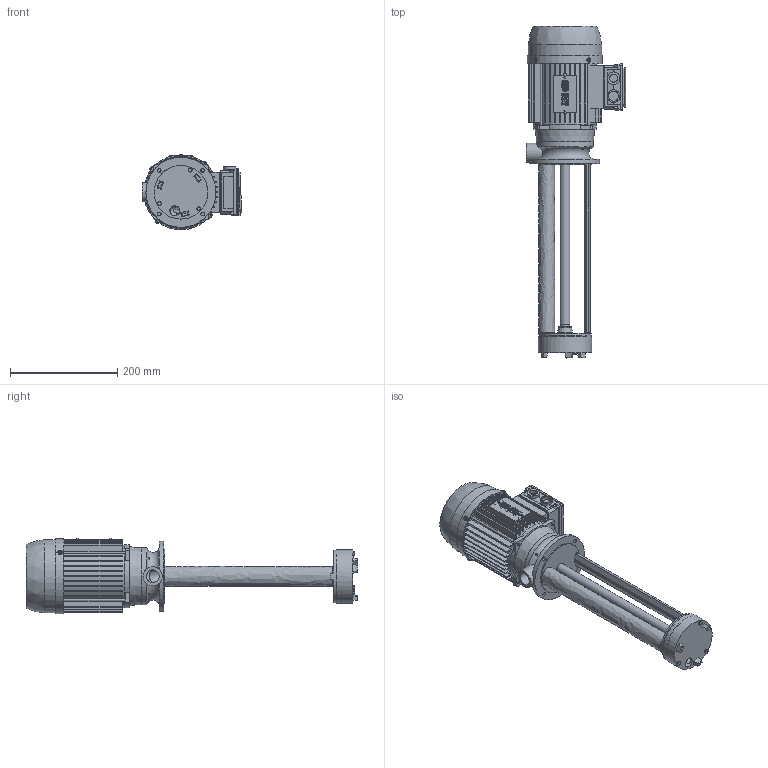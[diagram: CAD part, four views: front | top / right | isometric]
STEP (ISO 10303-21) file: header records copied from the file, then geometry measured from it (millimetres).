
FILE_DESCRIPTION(/* description */ (''),/* implementation_level */ '2;1');
FILE_NAME(/* name */ 'T:\STEP\EPC 71 B\YT71EPB++360.stp',/* time_stamp */ '2019-05-23T09:40:15+02:00',/* author */ ('cboccato'),/* organization */ (''),/* preprocessor_version */ 'ST-DEVELOPER v17.2',/* originating_system */ 'Autodesk Inventor 2019',/* authorisation */ '');
FILE_SCHEMA (('CONFIG_CONTROL_DESIGN'));
Products named in the file (1): YT71EPB++360_iLogic_Shrinkwrap
Bounding box: 185.5 x 619.6 x 141.09 mm (x, y, z)
Volume: 1496836.3 mm3; surface area: 656054.7 mm2
Topology: 13 solids, 31 shells, 2739 faces, 7759 edges, 5136 vertices
Faces by surface type: plane 1600, cylinder 706, cone 225, bspline 108, torus 89, sphere 11
Full cylindrical faces by diameter (mm): 2 x2, 2.53 x2, 3 x9, 3.5 x4, 3.621 x4, 3.9 x4, 4 x3, 4.134 x4, 4.3 x4, 4.33 x8, 4.5 x3, 4.6 x4, 5 x4, 5.5 x4, 6 x4, 6.03 x3, 7 x4, 7.2 x4, 7.75 x1, 9.6 x4, 12 x1, 15 x1, 16.6 x1, 16.8 x1, 17 x3, 17.4 x1, 17.5 x1, 18 x2, 18.5 x2, 18.7 x1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
Entity records: 101744 total; most frequent: CARTESIAN_POINT 27810, ORIENTED_EDGE 15544, DIRECTION 14067, EDGE_CURVE 7772, VERTEX_POINT 5160, AXIS2_PLACEMENT_3D 4873, LINE 4321, VECTOR 4321
